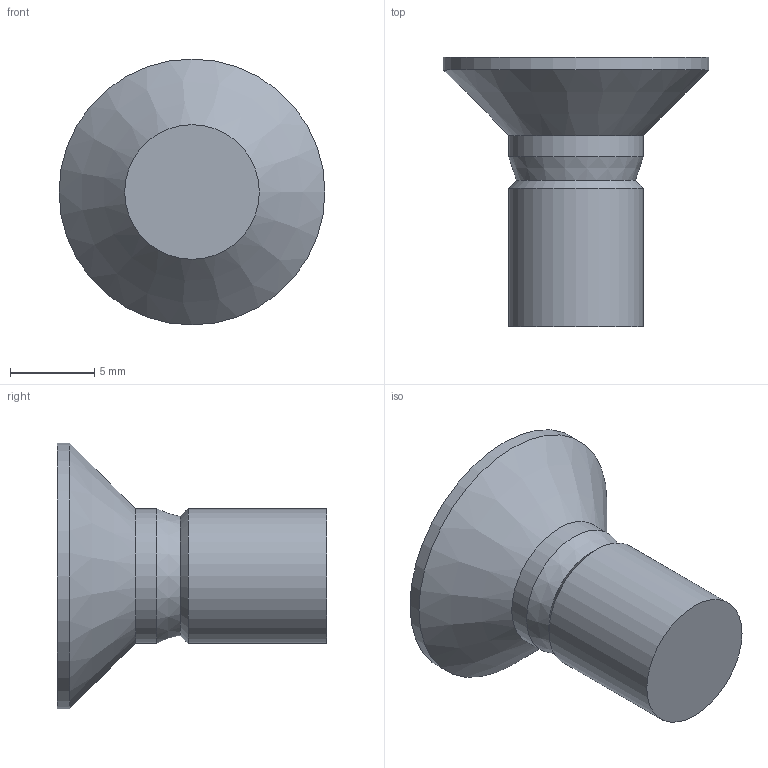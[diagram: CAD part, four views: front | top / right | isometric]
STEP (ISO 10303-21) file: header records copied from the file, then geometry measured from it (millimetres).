
FILE_DESCRIPTION(/* description */ (''),/* implementation_level */ '2;1');
FILE_NAME(/* name */ 'C:\Users\unitec\Documents\Inventor\HP\ボルト\JIS B 1111 十字穴付き皿小ねじ\IPT\CHWCSS-M8\CHWCSS-M8-16.stp',/* time_stamp */ '2016-12-24T16:30:29+09:00',/* author */ ('unitec'),/* organization */ (''),/* preprocessor_version */ 'ST-DEVELOPER v15.2',/* originating_system */ 'Autodesk Inventor 2014',/* authorisation */ '');
FILE_SCHEMA (('AUTOMOTIVE_DESIGN { 1 0 10303 214 3 1 1 }'));
Length unit declared in the file: millimetre
Products named in the file (1): CHWCSS-M8-16
Bounding box: 15.8 x 16 x 15.8 mm (x, y, z)
Volume: 1096.9 mm3; surface area: 830.7 mm2
Topology: 1 solids, 1 shells, 33 faces, 77 edges, 43 vertices
Faces by surface type: plane 23, bspline 4, cylinder 3, cone 3
Full cylindrical faces by diameter (mm): 8 x2, 15.8 x1
Entity records: 1057 total; most frequent: CARTESIAN_POINT 400, ORIENTED_EDGE 134, DIRECTION 106, EDGE_CURVE 67, VERTEX_POINT 43, EDGE_LOOP 40, AXIS2_PLACEMENT_3D 37, ADVANCED_FACE 33
